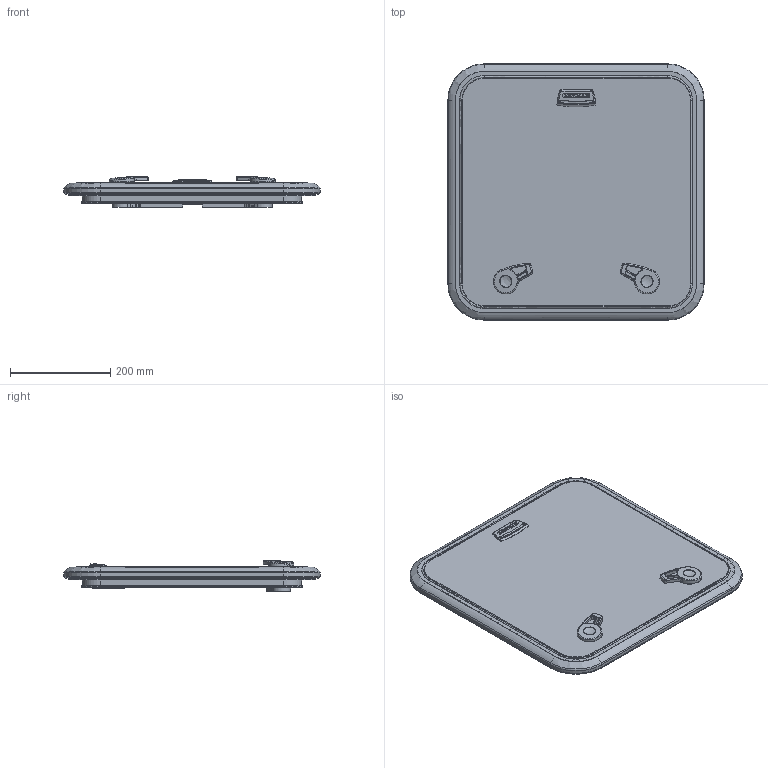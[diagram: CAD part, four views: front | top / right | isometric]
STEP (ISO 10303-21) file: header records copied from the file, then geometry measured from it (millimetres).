
FILE_DESCRIPTION((''),'2;1');
FILE_NAME('LEWMAR-HATCH-LOWPRO-44_ASM','2008-02-05T',('skennedy'),(''),'PRO/ENGINEER BY PARAMETRIC TECHNOLOGY CORPORATION, 2007030','PRO/ENGINEER BY PARAMETRIC TECHNOLOGY CORPORATION, 2007030','');
FILE_SCHEMA(('CONFIG_CONTROL_DESIGN'));
Length unit declared in the file: millimetre
Products named in the file (6): FRAME_44; 3594453X; HINGE_LEVER_LP; HANDLE_LP_RHS; HANDLE_LP_LHS; LEWMAR-HATCH-LOWPRO-44_ASM
Assembly tree (5 placements, depth 2):
  LEWMAR-HATCH-LOWPRO-44_ASM
    FRAME_44
    3594453X
    HINGE_LEVER_LP
    HANDLE_LP_RHS
    HANDLE_LP_LHS
Bounding box: 512 x 512 x 61.17 mm (x, y, z)
Volume: 3753779.7 mm3; surface area: 873220.6 mm2
Topology: 5 solids, 5 shells, 891 faces, 2228 edges, 1364 vertices
Faces by surface type: bspline 346, plane 297, cylinder 135, cone 41, torus 35, extrusion 23, sphere 14
Entity records: 38350 total; most frequent: CARTESIAN_POINT 19351, ORIENTED_EDGE 4432, DIRECTION 3011, EDGE_CURVE 2216, VERTEX_POINT 1364, AXIS2_PLACEMENT_3D 1053, EDGE_LOOP 950, VECTOR 905
